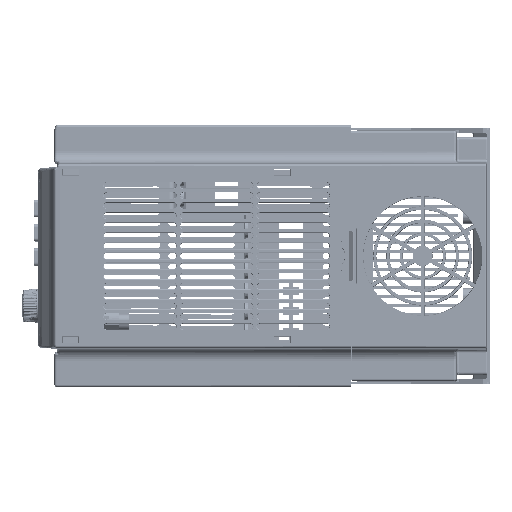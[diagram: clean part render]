
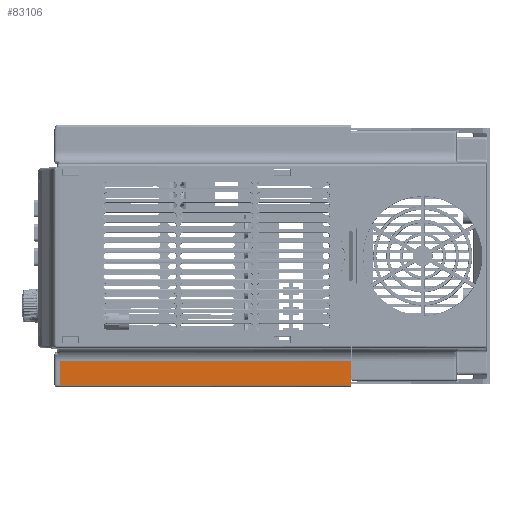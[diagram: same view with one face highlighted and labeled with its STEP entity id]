
A CAD part, left-side view. The second image highlights one B-rep face of the part: STEP entity #83106.
In plain terms, the highlighted planar face has unit normal (-1, 0, 0) as drawn and (0, 1, 0) by its records, which use the part's own axes.
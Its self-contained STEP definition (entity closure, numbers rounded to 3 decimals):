
#83055=DIRECTION('',(-1.,0.,0.));
#83056=VECTOR('',#83055,11.8);
#83057=CARTESIAN_POINT('',(63.8,102.491,143.783));
#83058=LINE('',#83057,#83056);
#83062=DIRECTION('',(0.,0.,-1.));
#83063=VECTOR('',#83062,144.28);
#83064=CARTESIAN_POINT('',(52.,102.491,143.783));
#83065=LINE('',#83064,#83063);
#83069=DIRECTION('',(1.,0.,0.));
#83070=VECTOR('',#83069,11.8);
#83071=CARTESIAN_POINT('',(52.,102.491,
-0.498));
#83072=LINE('',#83071,#83070);
#83076=DIRECTION('',(0.,0.,1.));
#83077=VECTOR('',#83076,144.28);
#83078=CARTESIAN_POINT('',(63.8,102.491,
-0.498));
#83079=LINE('',#83078,#83077);
#83083=CARTESIAN_POINT('',(63.8,102.491,143.783));
#83084=CARTESIAN_POINT('',(52.,102.491,143.783));
#83085=VERTEX_POINT('',#83083);
#83086=VERTEX_POINT('',#83084);
#83087=CARTESIAN_POINT('',(52.,102.491,
-0.498));
#83088=VERTEX_POINT('',#83087);
#83089=CARTESIAN_POINT('',(63.8,102.491,
-0.498));
#83090=VERTEX_POINT('',#83089);
#83091=CARTESIAN_POINT('',(57.9,102.491,71.643));
#83092=DIRECTION('',(0.,1.,0.));
#83093=DIRECTION('',(1.,0.,0.));
#83094=AXIS2_PLACEMENT_3D('',#83091,#83092,#83093);
#83095=PLANE('',#83094);
#83097=ORIENTED_EDGE('',*,*,#83096,.T.);
#83099=ORIENTED_EDGE('',*,*,#83098,.T.);
#83101=ORIENTED_EDGE('',*,*,#83100,.T.);
#83103=ORIENTED_EDGE('',*,*,#83102,.T.);
#83104=EDGE_LOOP('',(#83097,#83099,#83101,#83103));
#83105=FACE_OUTER_BOUND('',#83104,.F.);
#83096=EDGE_CURVE('',#83085,#83086,#83058,.T.);
#83098=EDGE_CURVE('',#83086,#83088,#83065,.T.);
#83100=EDGE_CURVE('',#83088,#83090,#83072,.T.);
#83102=EDGE_CURVE('',#83090,#83085,#83079,.T.);
#83106=ADVANCED_FACE('',(#83105),#83095,.T.);
